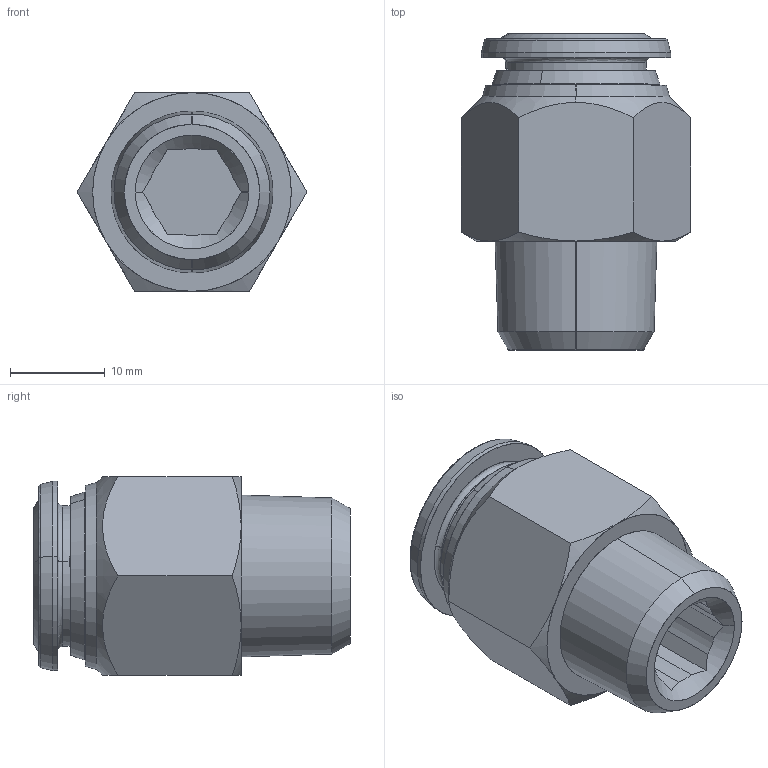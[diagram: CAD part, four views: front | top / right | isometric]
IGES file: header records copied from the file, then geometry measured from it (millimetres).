
Start section: SolidWorks IGES file using analytic representation for surfaces
Global section: file name: K:\Disegni Esecutivi\Serie 60000 inox 316\ASSIEMI_60000\60000\ASSIEMI_PIENI_60000\6000000009.IGS; native system: SolidWorks 2008; preprocessor: SolidWorks 2008; author: cad02; date: 080229.163019; units: millimetre
Bounding box: 24.25 x 33.4 x 21 mm (x, y, z)
Surface area: 3483.2 mm2 (no closed solid volume)
Topology: 0 solids, 0 shells, 81 faces, 1094 edges, 1094 vertices
Faces by surface type: revolution 42, bspline 39
